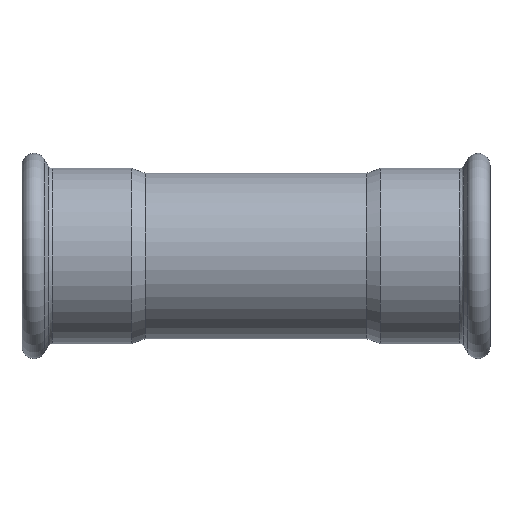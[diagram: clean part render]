
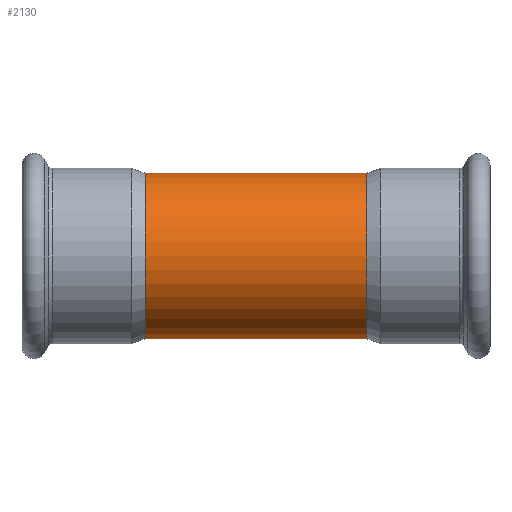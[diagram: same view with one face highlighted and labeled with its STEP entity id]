
A CAD part, front view. The second image highlights one B-rep face of the part: STEP entity #2130.
In plain terms, the highlighted cylindrical face has radius 38.05 mm (diameter 76.1 mm), a full revolution.
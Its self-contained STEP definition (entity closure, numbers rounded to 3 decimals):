
#1925=CARTESIAN_POINT('',(0.,33.235,18.526));
#1926=VERTEX_POINT('',#1925);
#2007=CARTESIAN_POINT('',(0.,33.235,18.526));
#2008=CARTESIAN_POINT('',(1.107,33.235,18.526));
#2009=CARTESIAN_POINT('',(2.588,33.303,18.406));
#2010=CARTESIAN_POINT('',(4.748,33.528,17.992));
#2011=CARTESIAN_POINT('',(6.513,33.788,17.504));
#2012=CARTESIAN_POINT('',(8.375,34.162,16.764));
#2013=CARTESIAN_POINT('',(9.654,34.474,16.108));
#2014=CARTESIAN_POINT('',(10.883,34.801,15.392));
#2015=CARTESIAN_POINT('',(12.783,35.359,14.108));
#2016=CARTESIAN_POINT('',(14.841,36.088,12.153));
#2017=CARTESIAN_POINT('',(16.231,36.636,10.3));
#2018=CARTESIAN_POINT('',(17.234,37.046,8.732));
#2019=CARTESIAN_POINT('',(18.199,37.46,6.847));
#2020=CARTESIAN_POINT('',(19.002,37.821,4.397));
#2021=CARTESIAN_POINT('',(19.334,37.973,2.556));
#2022=CARTESIAN_POINT('',(19.473,38.037,1.156));
#2023=CARTESIAN_POINT('',(19.519,38.059,-0.013));
#2024=CARTESIAN_POINT('',(19.461,38.032,-1.42));
#2025=CARTESIAN_POINT('',(19.307,37.961,-2.696));
#2026=CARTESIAN_POINT('',(19.13,37.88,-3.616));
#2027=CARTESIAN_POINT('',(18.917,37.783,-4.528));
#2028=CARTESIAN_POINT('',(18.498,37.594,-5.991));
#2029=CARTESIAN_POINT('',(17.778,37.278,-7.709));
#2030=CARTESIAN_POINT('',(16.633,36.797,-9.747));
#2031=CARTESIAN_POINT('',(15.256,36.247,-11.646));
#2032=CARTESIAN_POINT('',(13.548,35.629,-13.387));
#2033=CARTESIAN_POINT('',(12.079,35.155,-14.566));
#2034=CARTESIAN_POINT('',(10.911,34.81,-15.371));
#2035=CARTESIAN_POINT('',(9.789,34.506,-16.042));
#2036=CARTESIAN_POINT('',(8.092,34.097,-16.899));
#2037=CARTESIAN_POINT('',(6.392,33.768,-17.54));
#2038=CARTESIAN_POINT('',(4.513,33.502,-18.041));
#2039=CARTESIAN_POINT('',(2.588,33.3,-18.41));
#2040=CARTESIAN_POINT('',(0.,33.195,-18.597));
#2041=CARTESIAN_POINT('',(-2.462,33.295,-18.42));
#2042=CARTESIAN_POINT('',(-4.394,33.487,-18.068));
#2043=CARTESIAN_POINT('',(-6.277,33.746,-17.583));
#2044=CARTESIAN_POINT('',(-8.55,34.185,-16.728));
#2045=CARTESIAN_POINT('',(-10.649,34.728,-15.566));
#2046=CARTESIAN_POINT('',(-12.184,35.189,-14.486));
#2047=CARTESIAN_POINT('',(-13.635,35.661,-13.299));
#2048=CARTESIAN_POINT('',(-14.949,36.136,-11.958));
#2049=CARTESIAN_POINT('',(-16.096,36.582,-10.488));
#2050=CARTESIAN_POINT('',(-17.123,36.999,-8.947));
#2051=CARTESIAN_POINT('',(-18.194,37.458,-6.861));
#2052=CARTESIAN_POINT('',(-18.927,37.787,-4.625));
#2053=CARTESIAN_POINT('',(-19.295,37.956,-2.795));
#2054=CARTESIAN_POINT('',(-19.463,38.033,-1.397));
#2055=CARTESIAN_POINT('',(-19.519,38.059,0.006));
#2056=CARTESIAN_POINT('',(-19.443,38.024,1.881));
#2057=CARTESIAN_POINT('',(-19.145,37.886,3.731));
#2058=CARTESIAN_POINT('',(-18.629,37.653,5.534));
#2059=CARTESIAN_POINT('',(-17.976,37.365,7.283));
#2060=CARTESIAN_POINT('',(-16.915,36.91,9.354));
#2061=CARTESIAN_POINT('',(-15.401,36.305,11.449));
#2062=CARTESIAN_POINT('',(-13.798,35.719,13.144));
#2063=CARTESIAN_POINT('',(-12.197,35.187,14.503));
#2064=CARTESIAN_POINT('',(-10.427,34.667,15.701));
#2065=CARTESIAN_POINT('',(-8.53,34.193,16.702));
#2066=CARTESIAN_POINT('',(-6.52,33.789,17.501));
#2067=CARTESIAN_POINT('',(-4.396,33.476,18.09));
#2068=CARTESIAN_POINT('',(-2.219,33.28,18.446));
#2069=CARTESIAN_POINT('',(-0.738,33.235,18.526));
#2070=CARTESIAN_POINT('',(0.,33.235,18.526));
#2071=CARTESIAN_POINT('',(0.,33.235,18.526));
#2072=CARTESIAN_POINT('',(0.,33.235,18.526));
#2073=CARTESIAN_POINT('',(0.,33.235,18.526));
#2074=B_SPLINE_CURVE_WITH_KNOTS('',3,(#2007,#2008,#2009,#2010,#2011,#2012,#2013,#2014,#2015,#2016,#2017,#2018,#2019,#2020,#2021,#2022,#2023,#2024,#2025,#2026,#2027,#2028,#2029,#2030,#2031,#2032,#2033,#2034,#2035,#2036,#2037,#2038,#2039,#2040,#2041,#2042,#2043,#2044,#2045,#2046,#2047,#2048,#2049,#2050,#2051,#2052,#2053,#2054,#2055,#2056,#2057,#2058,#2059,#2060,#2061,#2062,#2063,#2064,#2065,#2066,#2067,#2068,#2069,#2070,#2071,#2072,#2073),.UNSPECIFIED.,.T.,.U.,(4,1,1,1,1,1,1,1,1,1,1,1,1,1,1,1,1,1,1,1,1,1,1,1,1,1,1,1,1,1,1,1,1,1,1,1,1,1,1,1,1,1,1,1,1,1,1,1,1,1,1,1,1,1,1,1,1,1,1,1,1,3,4),(-10.726,-10.438,-10.343,-10.151,-9.959,-9.816,-9.768,-9.576,-9.193,-9.002,-8.938,-8.683,-8.427,-8.236,-8.172,-8.044,-7.916,-7.789,-7.693,-7.661,-7.533,-7.278,-7.15,-6.895,-6.64,-6.48,-6.384,-6.257,-6.129,-5.874,-5.778,-5.618,-5.363,-5.107,-4.98,-4.852,-4.597,-4.341,-4.214,-4.086,-3.831,-3.703,-3.575,-3.32,-3.064,-2.937,-2.809,-2.681,-2.554,-2.298,-2.171,-2.043,-1.788,-1.532,-1.341,-1.149,-0.958,-0.766,-0.575,-0.383,-0.192,0.0,0.),.UNSPECIFIED.);
#2075=EDGE_CURVE('',#1926,#1926,#2074,.T.);
#2100=CARTESIAN_POINT('',(0.,0.,0.0));
#2101=DIRECTION('',(1.0,0.,0.0));
#2102=DIRECTION('',(0.0,1.0,0.0));
#2103=AXIS2_PLACEMENT_3D('',#2100,#2101,#2102);
#2104=CYLINDRICAL_SURFACE('',#2103,38.05);
#2105=CARTESIAN_POINT('',(-50.966,38.05,0.0));
#2106=VERTEX_POINT('',#2105);
#2107=CARTESIAN_POINT('',(-50.966,0.,0.0));
#2108=DIRECTION('',(1.0,0.0,0.0));
#2109=DIRECTION('',(0.0,1.0,0.0));
#2110=AXIS2_PLACEMENT_3D('',#2107,#2108,#2109);
#2111=CIRCLE('',#2110,38.05);
#2112=EDGE_CURVE('',#2106,#2106,#2111,.T.);
#2113=ORIENTED_EDGE('',*,*,#2112,.T.);
#2114=EDGE_LOOP('',(#2113));
#2115=FACE_OUTER_BOUND('',#2114,.T.);
#2116=CARTESIAN_POINT('',(50.966,38.05,0.0));
#2117=VERTEX_POINT('',#2116);
#2118=CARTESIAN_POINT('',(50.966,0.,0.0));
#2119=DIRECTION('',(1.0,0.0,0.0));
#2120=DIRECTION('',(0.0,1.0,0.0));
#2121=AXIS2_PLACEMENT_3D('',#2118,#2119,#2120);
#2122=CIRCLE('',#2121,38.05);
#2123=EDGE_CURVE('',#2117,#2117,#2122,.T.);
#2124=ORIENTED_EDGE('',*,*,#2123,.F.);
#2125=EDGE_LOOP('',(#2124));
#2126=FACE_BOUND('',#2125,.T.);
#2127=ORIENTED_EDGE('',*,*,#2075,.F.);
#2128=EDGE_LOOP('',(#2127));
#2129=FACE_BOUND('',#2128,.T.);
#2130=ADVANCED_FACE('',(#2115,#2126,#2129),#2104,.T.);
